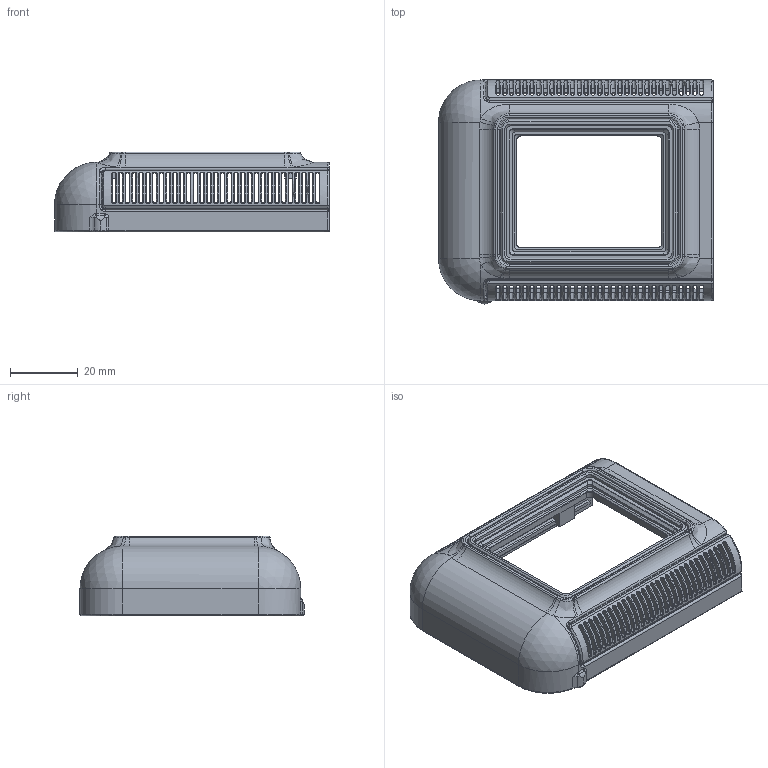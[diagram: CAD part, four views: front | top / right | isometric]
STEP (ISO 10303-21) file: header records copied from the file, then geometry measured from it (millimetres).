
FILE_DESCRIPTION(/* description */ (''),/* implementation_level */ '2;1');
FILE_NAME(/* name */ 'rear_cover.step',/* time_stamp */ '2026-07-06T13:18:29-05:00',/* author */ (''),/* organization */ (''),/* preprocessor_version */ 'ST-DEVELOPER v20.1',/* originating_system */ 'Autodesk Translation Framework v15.8.0.0',/* authorisation */ '');
FILE_SCHEMA (('AUTOMOTIVE_DESIGN { 1 0 10303 214 3 1 1 }'));
Length unit declared in the file: millimetre
Products named in the file (1): SaturnixLite_Hull
Bounding box: 81 x 65.99 x 23.5 mm (x, y, z)
Volume: 18013.6 mm3; surface area: 19351.1 mm2
Topology: 1 solids, 1 shells, 1148 faces, 2965 edges, 1832 vertices
Faces by surface type: bspline 468, plane 259, cylinder 241, cone 144, torus 28, sphere 8
Full cylindrical faces by diameter (mm): 1.5 x4, 3.5 x4
Entity records: 60716 total; most frequent: CARTESIAN_POINT 35445, ORIENTED_EDGE 5928, DIRECTION 4028, EDGE_CURVE 2964, VERTEX_POINT 1832, AXIS2_PLACEMENT_3D 1385, EDGE_LOOP 1288, LINE 1258
